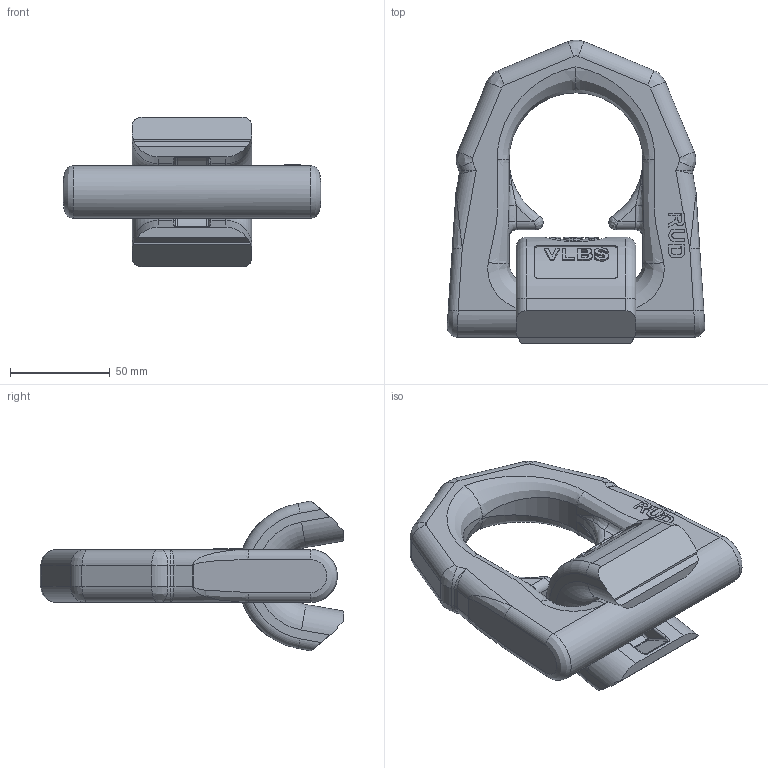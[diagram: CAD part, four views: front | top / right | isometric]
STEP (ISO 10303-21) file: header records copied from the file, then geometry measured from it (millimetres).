
FILE_DESCRIPTION((''),'2;1');
FILE_NAME('001-M32121-P4_ASM','2017-10-06T',('anja.joas'),(''),'PRO/ENGINEER BY PARAMETRIC TECHNOLOGY CORPORATION, 2011490','PRO/ENGINEER BY PARAMETRIC TECHNOLOGY CORPORATION, 2011490','');
FILE_SCHEMA(('CONFIG_CONTROL_DESIGN'));
Length unit declared in the file: millimetre
Products named in the file (3): 001-M32121-P2; 001-M34887-P01; 001-M32121-P4_ASM
Assembly tree (2 placements, depth 2):
  001-M32121-P4_ASM
    001-M32121-P2
    001-M34887-P01
Bounding box: 129.17 x 152.22 x 75 mm (x, y, z)
Volume: 367301.8 mm3; surface area: 57082.8 mm2
Topology: 2 solids, 2 shells, 427 faces, 1087 edges, 682 vertices
Faces by surface type: plane 161, cylinder 113, extrusion 73, bspline 60, torus 16, sphere 4
Entity records: 31095 total; most frequent: CARTESIAN_POINT 21403, ORIENTED_EDGE 2174, DIRECTION 1686, EDGE_CURVE 1087, VERTEX_POINT 682, VECTOR 584, AXIS2_PLACEMENT_3D 551, LINE 511
